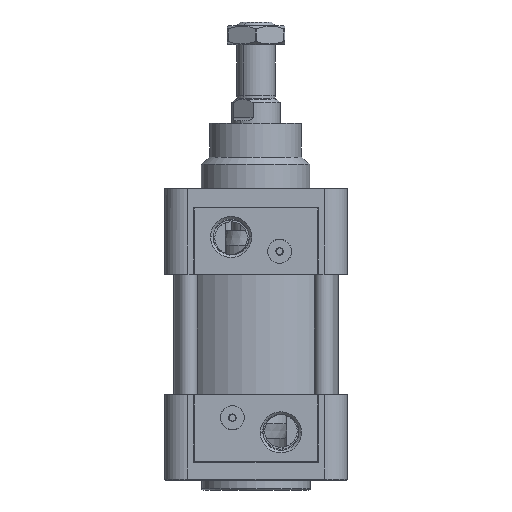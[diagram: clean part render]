
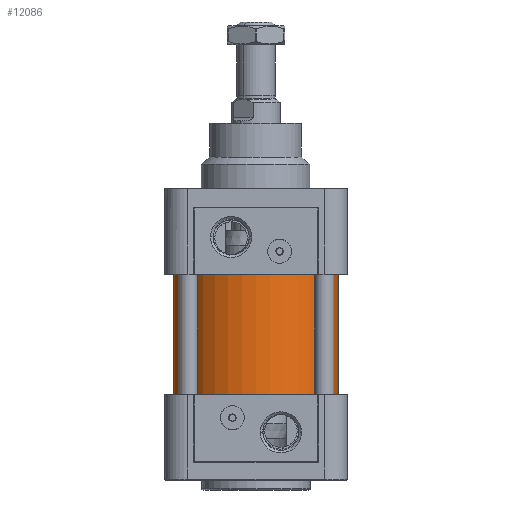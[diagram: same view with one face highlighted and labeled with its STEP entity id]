
A CAD part, front view. The second image highlights one B-rep face of the part: STEP entity #12086.
In plain terms, the highlighted cylindrical face has radius 34 mm (diameter 68 mm), a partial arc.
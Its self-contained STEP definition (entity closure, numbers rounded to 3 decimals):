
#226 = CARTESIAN_POINT ( 'NONE',  ( 34., 0., 0. ) ) ;
#1169 = AXIS2_PLACEMENT_3D ( 'NONE', #28776, #6677, #38145 ) ;
#1720 = CARTESIAN_POINT ( 'NONE',  ( -34., 0., 50. ) ) ;
#2000 = CYLINDRICAL_SURFACE ( 'NONE', #1169, 34. ) ;
#3614 = ORIENTED_EDGE ( 'NONE', *, *, #33379, .T. ) ;
#4851 = CARTESIAN_POINT ( 'NONE',  ( 34., 0., 50. ) ) ;
#4972 = FACE_OUTER_BOUND ( 'NONE', #28356, .T. ) ;
#5215 = VECTOR ( 'NONE', #14435, 1000. ) ;
#5714 = DIRECTION ( 'NONE',  ( 0., 0., 1. ) ) ;
#6586 = EDGE_CURVE ( 'NONE', #32043, #38254, #24813, .T. ) ;
#6677 = DIRECTION ( 'NONE',  ( 0., 0., -1. ) ) ;
#6969 = VECTOR ( 'NONE', #36439, 1000. ) ;
#12030 = AXIS2_PLACEMENT_3D ( 'NONE', #35224, #16360, #38432 ) ;
#12086 = ADVANCED_FACE ( 'NONE', ( #4972 ), #2000, .T. ) ;
#13373 = CARTESIAN_POINT ( 'NONE',  ( -34., 0., 0. ) ) ;
#14435 = DIRECTION ( 'NONE',  ( 0., 0., -1. ) ) ;
#16360 = DIRECTION ( 'NONE',  ( 0., 0., 1. ) ) ;
#20820 = CARTESIAN_POINT ( 'NONE',  ( 34., 0., 50. ) ) ;
#21078 = VERTEX_POINT ( 'NONE', #13373 ) ;
#21413 = CIRCLE ( 'NONE', #36497, 34. ) ;
#24424 = ORIENTED_EDGE ( 'NONE', *, *, #6586, .F. ) ;
#24464 = EDGE_CURVE ( 'NONE', #39053, #21078, #37800, .T. ) ;
#24671 = CARTESIAN_POINT ( 'NONE',  ( 0., 0., 50. ) ) ;
#24813 = LINE ( 'NONE', #4851, #6969 ) ;
#26576 = CIRCLE ( 'NONE', #12030, 34. ) ;
#27801 = DIRECTION ( 'NONE',  ( 1., 0., 0. ) ) ;
#28356 = EDGE_LOOP ( 'NONE', ( #24424, #40178, #30818, #3614 ) ) ;
#28776 = CARTESIAN_POINT ( 'NONE',  ( 0., 0., 50. ) ) ;
#29572 = EDGE_CURVE ( 'NONE', #39053, #32043, #21413, .T. ) ;
#29573 = CARTESIAN_POINT ( 'NONE',  ( -34., 0., 50. ) ) ;
#30818 = ORIENTED_EDGE ( 'NONE', *, *, #24464, .T. ) ;
#32043 = VERTEX_POINT ( 'NONE', #20820 ) ;
#33379 = EDGE_CURVE ( 'NONE', #21078, #38254, #26576, .T. ) ;
#35224 = CARTESIAN_POINT ( 'NONE',  ( 0., 0., 0. ) ) ;
#36439 = DIRECTION ( 'NONE',  ( 0., 0., -1. ) ) ;
#36497 = AXIS2_PLACEMENT_3D ( 'NONE', #24671, #5714, #27801 ) ;
#37800 = LINE ( 'NONE', #1720, #5215 ) ;
#38145 = DIRECTION ( 'NONE',  ( -1., 0., 0. ) ) ;
#38254 = VERTEX_POINT ( 'NONE', #226 ) ;
#38432 = DIRECTION ( 'NONE',  ( 1., 0., 0. ) ) ;
#39053 = VERTEX_POINT ( 'NONE', #29573 ) ;
#40178 = ORIENTED_EDGE ( 'NONE', *, *, #29572, .F. ) ;
